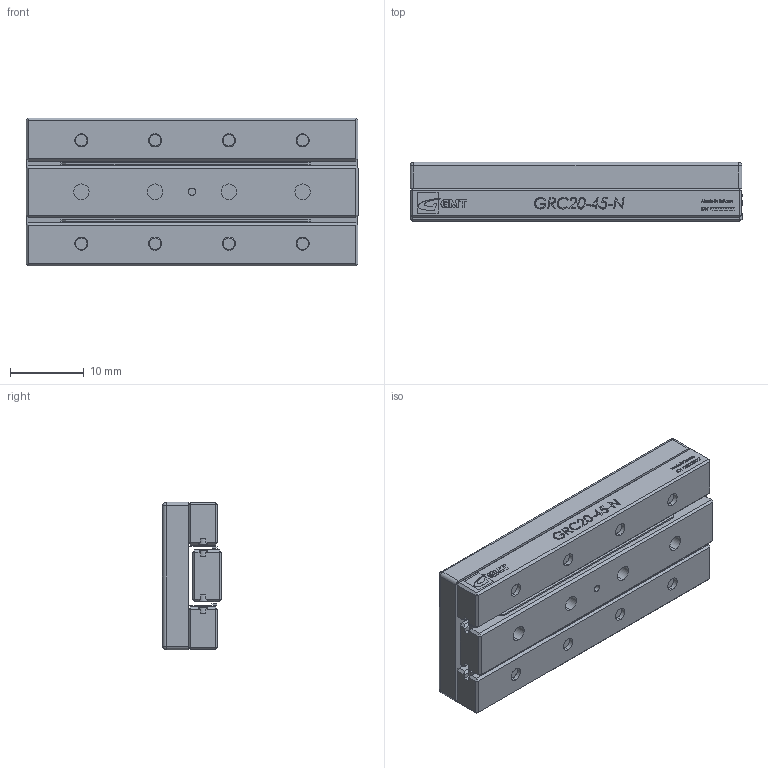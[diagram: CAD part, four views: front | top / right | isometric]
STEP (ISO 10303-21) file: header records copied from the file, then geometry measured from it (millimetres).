
FILE_DESCRIPTION (( 'STEP AP203' ), '1' );
FILE_NAME ('GRC20-45.STEP', '2012-10-19T08:13:12', ( '123' ), ( '' ), 'SwSTEP 2.0', 'SolidWorks 2012', '' );
FILE_SCHEMA (( 'CONFIG_CONTROL_DESIGN' ));
Length unit declared in the file: millimetre
Products named in the file (1): GRC20-45
Bounding box: 45 x 8.04 x 20 mm (x, y, z)
Surface area: 5178.8 mm2 (no closed solid volume)
Topology: 0 solids, 48 shells, 734 faces, 3428 edges, 2634 vertices
Faces by surface type: plane 474, cylinder 110, bspline 82, cone 32, torus 32, sphere 4
Entity records: 43416 total; most frequent: CARTESIAN_POINT 17523, ORIENTED_EDGE 4766, DIRECTION 4742, EDGE_CURVE 3408, VERTEX_POINT 2634, LINE 2340, VECTOR 2340, AXIS2_PLACEMENT_3D 1201
